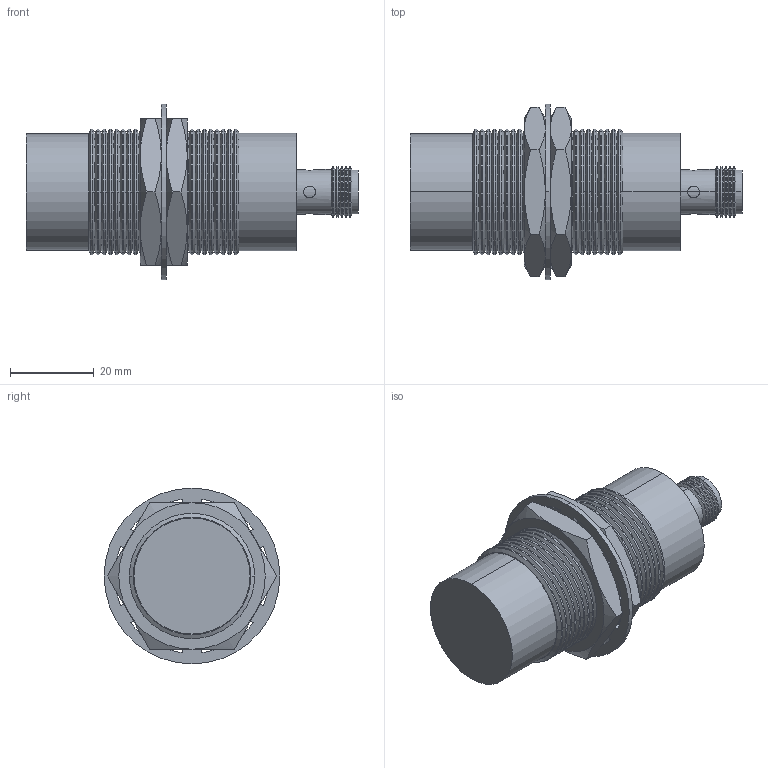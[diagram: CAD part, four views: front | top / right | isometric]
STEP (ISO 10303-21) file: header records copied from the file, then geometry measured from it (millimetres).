
FILE_DESCRIPTION (( 'STEP AP203' ), '1' );
FILE_NAME ('90-29417-080.STEP', '2016-04-29T19:33:07', ( 'Sam' ), ( 'Spade' ), 'SwSTEP 2.0', 'SolidWorks 2002296', '' );
FILE_SCHEMA (( 'CONFIG_CONTROL_DESIGN' ));
Length unit declared in the file: inch
Products named in the file (12): 90-29417-080; Imported50; Imported49; Imported48; Imported51; Imported54; Imported53; Imported52; Imported58; Imported57; Imported56; Imported55
Assembly tree (11 placements, depth 2):
  90-29417-080
    Imported48
    Imported53
    Imported56
    Imported58
    Imported54
    Imported52
    Imported51
    Imported57
    Imported55
    Imported50
    Imported49
Bounding box: 79.45 x 42.06 x 42.06 mm (x, y, z)
Volume: 47265.7 mm3; surface area: 17871.1 mm2
Topology: 11 solids, 11 shells, 399 faces, 949 edges, 566 vertices
Faces by surface type: cone 168, cylinder 140, plane 83, bspline 8
Entity records: 13335 total; most frequent: CARTESIAN_POINT 2656, DIRECTION 2129, ORIENTED_EDGE 1882, EDGE_CURVE 941, AXIS2_PLACEMENT_3D 847, VERTEX_POINT 566, CIRCLE 442, LINE 435
